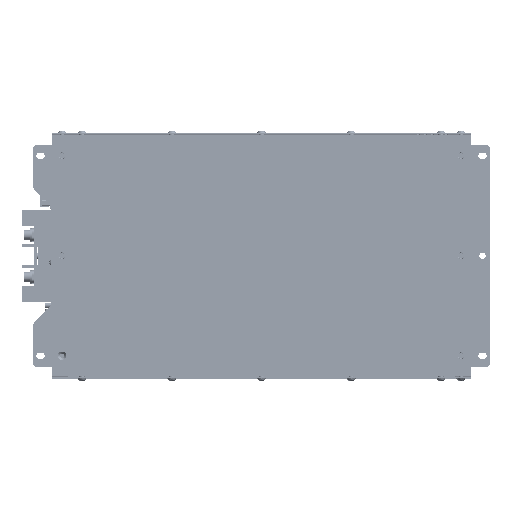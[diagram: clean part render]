
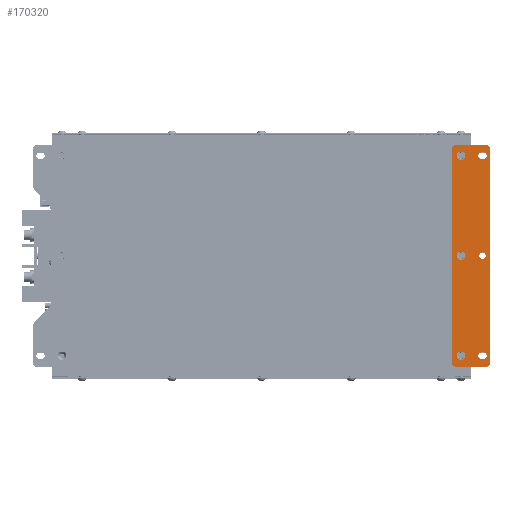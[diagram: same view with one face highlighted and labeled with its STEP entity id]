
A CAD part, top view. The second image highlights one B-rep face of the part: STEP entity #170320.
In plain terms, the highlighted planar face has unit normal (0, 0, 1).
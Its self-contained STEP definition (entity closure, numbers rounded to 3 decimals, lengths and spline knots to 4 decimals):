
#6904=FACE_BOUND('',#51632,.T.);
#6905=FACE_BOUND('',#51633,.T.);
#6906=FACE_BOUND('',#51634,.T.);
#6907=FACE_BOUND('',#51635,.T.);
#6908=FACE_BOUND('',#51636,.T.);
#6909=FACE_BOUND('',#51637,.T.);
#8537=PLANE('',#179096);
#13632=LINE('',#240895,#27268);
#13633=LINE('',#240899,#27269);
#13634=LINE('',#240903,#27270);
#13635=LINE('',#240907,#27271);
#13636=LINE('',#240913,#27272);
#13637=LINE('',#240917,#27273);
#13638=LINE('',#240921,#27274);
#13639=LINE('',#240925,#27275);
#27268=VECTOR('',#195115,0.3937);
#27269=VECTOR('',#195118,0.3937);
#27270=VECTOR('',#195121,0.3937);
#27271=VECTOR('',#195124,0.3937);
#27272=VECTOR('',#195129,0.3937);
#27273=VECTOR('',#195132,0.3937);
#27274=VECTOR('',#195135,0.3937);
#27275=VECTOR('',#195138,0.3937);
#42977=FACE_OUTER_BOUND('',#51631,.T.);
#51631=EDGE_LOOP('',(#113977,#113978,#113979,#113980,#113981,#113982,#113983,
#113984));
#51632=EDGE_LOOP('',(#113985));
#51633=EDGE_LOOP('',(#113986,#113987,#113988,#113989));
#51634=EDGE_LOOP('',(#113990,#113991,#113992,#113993));
#51635=EDGE_LOOP('',(#113994));
#51636=EDGE_LOOP('',(#113995));
#51637=EDGE_LOOP('',(#113996));
#61430=CIRCLE('',#179094,0.1673);
#61432=CIRCLE('',#179097,0.1575);
#61433=CIRCLE('',#179098,0.1575);
#61434=CIRCLE('',#179099,0.1575);
#61435=CIRCLE('',#179100,0.1575);
#61436=CIRCLE('',#179101,0.1673);
#61437=CIRCLE('',#179102,0.1299);
#61438=CIRCLE('',#179103,0.1299);
#61439=CIRCLE('',#179104,0.1299);
#61440=CIRCLE('',#179105,0.1299);
#61441=CIRCLE('',#179106,0.1299);
#61442=CIRCLE('',#179107,0.1673);
#68750=VERTEX_POINT('',#240887);
#68752=VERTEX_POINT('',#240893);
#68753=VERTEX_POINT('',#240894);
#68754=VERTEX_POINT('',#240896);
#68755=VERTEX_POINT('',#240898);
#68756=VERTEX_POINT('',#240900);
#68757=VERTEX_POINT('',#240902);
#68758=VERTEX_POINT('',#240904);
#68759=VERTEX_POINT('',#240906);
#68760=VERTEX_POINT('',#240909);
#68761=VERTEX_POINT('',#240911);
#68762=VERTEX_POINT('',#240912);
#68763=VERTEX_POINT('',#240914);
#68764=VERTEX_POINT('',#240916);
#68765=VERTEX_POINT('',#240919);
#68766=VERTEX_POINT('',#240920);
#68767=VERTEX_POINT('',#240922);
#68768=VERTEX_POINT('',#240924);
#68769=VERTEX_POINT('',#240927);
#68770=VERTEX_POINT('',#240929);
#87013=EDGE_CURVE('',#68750,#68750,#61430,.T.);
#87016=EDGE_CURVE('',#68752,#68753,#13632,.T.);
#87017=EDGE_CURVE('',#68753,#68754,#61432,.T.);
#87018=EDGE_CURVE('',#68754,#68755,#13633,.T.);
#87019=EDGE_CURVE('',#68755,#68756,#61433,.T.);
#87020=EDGE_CURVE('',#68756,#68757,#13634,.T.);
#87021=EDGE_CURVE('',#68757,#68758,#61434,.T.);
#87022=EDGE_CURVE('',#68758,#68759,#13635,.T.);
#87023=EDGE_CURVE('',#68759,#68752,#61435,.T.);
#87024=EDGE_CURVE('',#68760,#68760,#61436,.T.);
#87025=EDGE_CURVE('',#68761,#68762,#13636,.T.);
#87026=EDGE_CURVE('',#68762,#68763,#61437,.T.);
#87027=EDGE_CURVE('',#68763,#68764,#13637,.T.);
#87028=EDGE_CURVE('',#68764,#68761,#61438,.T.);
#87029=EDGE_CURVE('',#68765,#68766,#13638,.T.);
#87030=EDGE_CURVE('',#68766,#68767,#61439,.T.);
#87031=EDGE_CURVE('',#68767,#68768,#13639,.T.);
#87032=EDGE_CURVE('',#68768,#68765,#61440,.T.);
#87033=EDGE_CURVE('',#68769,#68769,#61441,.T.);
#87034=EDGE_CURVE('',#68770,#68770,#61442,.T.);
#113977=ORIENTED_EDGE('',*,*,#87016,.T.);
#113978=ORIENTED_EDGE('',*,*,#87017,.T.);
#113979=ORIENTED_EDGE('',*,*,#87018,.T.);
#113980=ORIENTED_EDGE('',*,*,#87019,.T.);
#113981=ORIENTED_EDGE('',*,*,#87020,.T.);
#113982=ORIENTED_EDGE('',*,*,#87021,.T.);
#113983=ORIENTED_EDGE('',*,*,#87022,.T.);
#113984=ORIENTED_EDGE('',*,*,#87023,.T.);
#113985=ORIENTED_EDGE('',*,*,#87024,.F.);
#113986=ORIENTED_EDGE('',*,*,#87025,.T.);
#113987=ORIENTED_EDGE('',*,*,#87026,.T.);
#113988=ORIENTED_EDGE('',*,*,#87027,.T.);
#113989=ORIENTED_EDGE('',*,*,#87028,.T.);
#113990=ORIENTED_EDGE('',*,*,#87029,.T.);
#113991=ORIENTED_EDGE('',*,*,#87030,.T.);
#113992=ORIENTED_EDGE('',*,*,#87031,.T.);
#113993=ORIENTED_EDGE('',*,*,#87032,.T.);
#113994=ORIENTED_EDGE('',*,*,#87033,.T.);
#113995=ORIENTED_EDGE('',*,*,#87034,.F.);
#113996=ORIENTED_EDGE('',*,*,#87013,.F.);
#170320=ADVANCED_FACE('',(#42977,#6904,#6905,#6906,#6907,#6908,#6909),#8537,
 .T.);
#179094=AXIS2_PLACEMENT_3D('',#240888,#195108,#195109);
#179096=AXIS2_PLACEMENT_3D('',#240892,#195113,#195114);
#179097=AXIS2_PLACEMENT_3D('',#240897,#195116,#195117);
#179098=AXIS2_PLACEMENT_3D('',#240901,#195119,#195120);
#179099=AXIS2_PLACEMENT_3D('',#240905,#195122,#195123);
#179100=AXIS2_PLACEMENT_3D('',#240908,#195125,#195126);
#179101=AXIS2_PLACEMENT_3D('',#240910,#195127,#195128);
#179102=AXIS2_PLACEMENT_3D('',#240915,#195130,#195131);
#179103=AXIS2_PLACEMENT_3D('',#240918,#195133,#195134);
#179104=AXIS2_PLACEMENT_3D('',#240923,#195136,#195137);
#179105=AXIS2_PLACEMENT_3D('',#240926,#195139,#195140);
#179106=AXIS2_PLACEMENT_3D('',#240928,#195141,#195142);
#179107=AXIS2_PLACEMENT_3D('',#240930,#195143,#195144);
#195108=DIRECTION('center_axis',(0.,0.,
1.));
#195109=DIRECTION('ref_axis',(0.,1.,0.));
#195113=DIRECTION('center_axis',(0.,0.,
1.));
#195114=DIRECTION('ref_axis',(1.,0.,0.));
#195115=DIRECTION('',(1.,0.,0.));
#195116=DIRECTION('center_axis',(0.,0.,
1.));
#195117=DIRECTION('ref_axis',(0.,-1.,0.));
#195118=DIRECTION('',(0.,1.,0.));
#195119=DIRECTION('center_axis',(0.,0.,
1.));
#195120=DIRECTION('ref_axis',(1.,0.,0.));
#195121=DIRECTION('',(-1.,0.,0.));
#195122=DIRECTION('center_axis',(0.,0.,
1.));
#195123=DIRECTION('ref_axis',(0.,1.,0.));
#195124=DIRECTION('',(0.,-1.,0.));
#195125=DIRECTION('center_axis',(0.,0.,
1.));
#195126=DIRECTION('ref_axis',(-1.,0.,0.));
#195127=DIRECTION('center_axis',(0.,0.,
1.));
#195128=DIRECTION('ref_axis',(0.,1.,0.));
#195129=DIRECTION('',(-1.,0.,0.));
#195130=DIRECTION('center_axis',(0.,0.,
-1.));
#195131=DIRECTION('ref_axis',(0.,-1.,0.));
#195132=DIRECTION('',(1.,0.,0.));
#195133=DIRECTION('center_axis',(0.,0.,
-1.));
#195134=DIRECTION('ref_axis',(0.,1.,0.));
#195135=DIRECTION('',(1.,0.,0.));
#195136=DIRECTION('center_axis',(0.,0.,
-1.));
#195137=DIRECTION('ref_axis',(0.,1.,0.));
#195138=DIRECTION('',(-1.,0.,0.));
#195139=DIRECTION('center_axis',(0.,0.,
-1.));
#195140=DIRECTION('ref_axis',(0.,-1.,0.));
#195141=DIRECTION('center_axis',(0.,0.,
-1.));
#195142=DIRECTION('ref_axis',(0.,1.,0.));
#195143=DIRECTION('center_axis',(0.,0.,
1.));
#195144=DIRECTION('ref_axis',(0.,1.,0.));
#240887=CARTESIAN_POINT('',(8.8386,8.5925,8.3909));
#240888=CARTESIAN_POINT('Origin',(8.8386,8.7598,8.3909));
#240892=CARTESIAN_POINT('Origin',(9.2323,4.8228,8.3909));
#240893=CARTESIAN_POINT('',(8.6418,0.4528,8.3909));
#240894=CARTESIAN_POINT('',(9.8229,0.4528,8.3909));
#240895=CARTESIAN_POINT('',(8.6418,0.4528,8.3909));
#240896=CARTESIAN_POINT('',(9.9804,0.6102,8.3909));
#240897=CARTESIAN_POINT('Origin',(9.8229,0.6102,8.3909));
#240898=CARTESIAN_POINT('',(9.9804,9.0354,8.3909));
#240899=CARTESIAN_POINT('',(9.9804,0.6102,8.3909));
#240900=CARTESIAN_POINT('',(9.8229,9.1929,8.3909));
#240901=CARTESIAN_POINT('Origin',(9.8229,9.0354,8.3909));
#240902=CARTESIAN_POINT('',(8.6418,9.1929,8.3909));
#240903=CARTESIAN_POINT('',(9.8229,9.1929,8.3909));
#240904=CARTESIAN_POINT('',(8.4843,9.0354,8.3909));
#240905=CARTESIAN_POINT('Origin',(8.6418,9.0354,8.3909));
#240906=CARTESIAN_POINT('',(8.4843,0.6102,8.3909));
#240907=CARTESIAN_POINT('',(8.4843,9.0354,8.3909));
#240908=CARTESIAN_POINT('Origin',(8.6418,0.6102,8.3909));
#240909=CARTESIAN_POINT('',(8.8386,4.6555,8.3909));
#240910=CARTESIAN_POINT('Origin',(8.8386,4.8228,8.3909));
#240911=CARTESIAN_POINT('',(9.7245,8.6299,8.3909));
#240912=CARTESIAN_POINT('',(9.6457,8.6299,8.3909));
#240913=CARTESIAN_POINT('',(9.7245,8.6299,8.3909));
#240914=CARTESIAN_POINT('',(9.6457,8.8898,8.3909));
#240915=CARTESIAN_POINT('Origin',(9.6457,8.7598,8.3909));
#240916=CARTESIAN_POINT('',(9.7245,8.8898,8.3909));
#240917=CARTESIAN_POINT('',(9.6457,8.8898,8.3909));
#240918=CARTESIAN_POINT('Origin',(9.7245,8.7598,8.3909));
#240919=CARTESIAN_POINT('',(9.6457,1.0157,8.3909));
#240920=CARTESIAN_POINT('',(9.7245,1.0157,8.3909));
#240921=CARTESIAN_POINT('',(9.6457,1.0157,8.3909));
#240922=CARTESIAN_POINT('',(9.7245,0.7559,8.3909));
#240923=CARTESIAN_POINT('Origin',(9.7245,0.8858,8.3909));
#240924=CARTESIAN_POINT('',(9.6457,0.7559,8.3909));
#240925=CARTESIAN_POINT('',(9.7245,0.7559,8.3909));
#240926=CARTESIAN_POINT('Origin',(9.6457,0.8858,8.3909));
#240927=CARTESIAN_POINT('',(9.6851,4.6929,8.3909));
#240928=CARTESIAN_POINT('Origin',(9.6851,4.8228,8.3909));
#240929=CARTESIAN_POINT('',(8.8386,0.7185,8.3909));
#240930=CARTESIAN_POINT('Origin',(8.8386,0.8858,8.3909));
